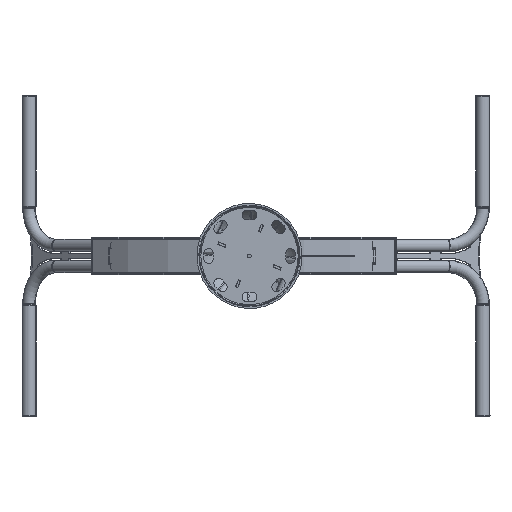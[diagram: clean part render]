
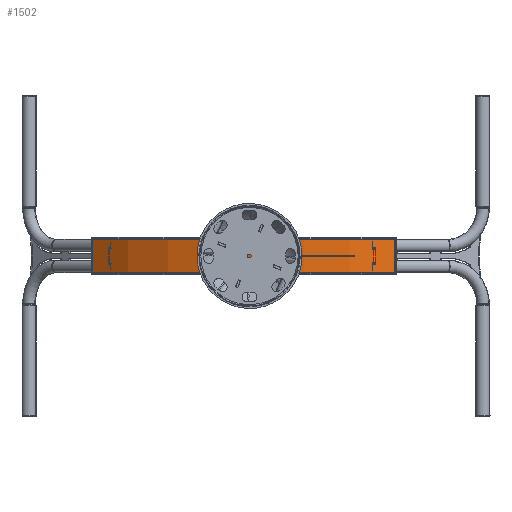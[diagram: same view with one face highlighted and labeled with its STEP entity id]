
A CAD part, front view. The second image highlights one B-rep face of the part: STEP entity #1502.
In plain terms, the highlighted cylindrical face has radius 775 mm (diameter 1550 mm), a partial arc.
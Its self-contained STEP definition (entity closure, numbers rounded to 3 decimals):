
#1502 = ADVANCED_FACE ( 'NONE', ( #14713 ), #2548, .T. ) ;
#2548 = CYLINDRICAL_SURFACE ( 'NONE', #20898, 775. ) ;
#5725 = EDGE_CURVE ( 'NONE', #31816, #78525, #31109, .T. ) ;
#11200 = CARTESIAN_POINT ( 'NONE',  ( 0., 0., -216.752 ) ) ;
#14713 = FACE_OUTER_BOUND ( 'NONE', #64336, .T. ) ;
#15026 = LINE ( 'NONE', #59129, #68080 ) ;
#15241 = DIRECTION ( 'NONE',  ( 0., 0., -1. ) ) ;
#17355 = EDGE_CURVE ( 'NONE', #78525, #79797, #15026, .T. ) ;
#20898 = AXIS2_PLACEMENT_3D ( 'NONE', #11200, #54372, #90895 ) ;
#21972 = AXIS2_PLACEMENT_3D ( 'NONE', #48232, #56547, #48841 ) ;
#26201 = ORIENTED_EDGE ( 'NONE', *, *, #17355, .F. ) ;
#28162 = VECTOR ( 'NONE', #15241, 1000. ) ;
#31109 = CIRCLE ( 'NONE', #62900, 775. ) ;
#31816 = VERTEX_POINT ( 'NONE', #88175 ) ;
#38231 = DIRECTION ( 'NONE',  ( 0., 0., -1. ) ) ;
#38450 = DIRECTION ( 'NONE',  ( 0., 0., 1. ) ) ;
#45315 = DIRECTION ( 'NONE',  ( -1., 0., 0. ) ) ;
#48232 = CARTESIAN_POINT ( 'NONE',  ( 0., 0., 45. ) ) ;
#48482 = CARTESIAN_POINT ( 'NONE',  ( 428.513, 645.757, -45. ) ) ;
#48841 = DIRECTION ( 'NONE',  ( -1., 0., 0. ) ) ;
#51292 = EDGE_CURVE ( 'NONE', #57809, #79797, #54218, .T. ) ;
#52717 = CARTESIAN_POINT ( 'NONE',  ( -399.155, 664.305, 45. ) ) ;
#54218 = CIRCLE ( 'NONE', #21972, 775. ) ;
#54372 = DIRECTION ( 'NONE',  ( 0., 0., -1. ) ) ;
#56547 = DIRECTION ( 'NONE',  ( 0., 0., -1. ) ) ;
#57809 = VERTEX_POINT ( 'NONE', #52717 ) ;
#59129 = CARTESIAN_POINT ( 'NONE',  ( 428.513, 645.757, -50. ) ) ;
#62900 = AXIS2_PLACEMENT_3D ( 'NONE', #80586, #38231, #45315 ) ;
#64336 = EDGE_LOOP ( 'NONE', ( #26201, #89236, #74496, #76131 ) ) ;
#64653 = CARTESIAN_POINT ( 'NONE',  ( -399.155, 664.305, -216.752 ) ) ;
#68080 = VECTOR ( 'NONE', #38450, 1000. ) ;
#72748 = CARTESIAN_POINT ( 'NONE',  ( 428.513, 645.757, 45. ) ) ;
#74496 = ORIENTED_EDGE ( 'NONE', *, *, #82855, .F. ) ;
#76131 = ORIENTED_EDGE ( 'NONE', *, *, #51292, .T. ) ;
#78525 = VERTEX_POINT ( 'NONE', #48482 ) ;
#79797 = VERTEX_POINT ( 'NONE', #72748 ) ;
#80586 = CARTESIAN_POINT ( 'NONE',  ( 0., 0., -45. ) ) ;
#82855 = EDGE_CURVE ( 'NONE', #57809, #31816, #86816, .T. ) ;
#86816 = LINE ( 'NONE', #64653, #28162 ) ;
#88175 = CARTESIAN_POINT ( 'NONE',  ( -399.155, 664.305, -45. ) ) ;
#89236 = ORIENTED_EDGE ( 'NONE', *, *, #5725, .F. ) ;
#90895 = DIRECTION ( 'NONE',  ( -1., 0., 0. ) ) ;
